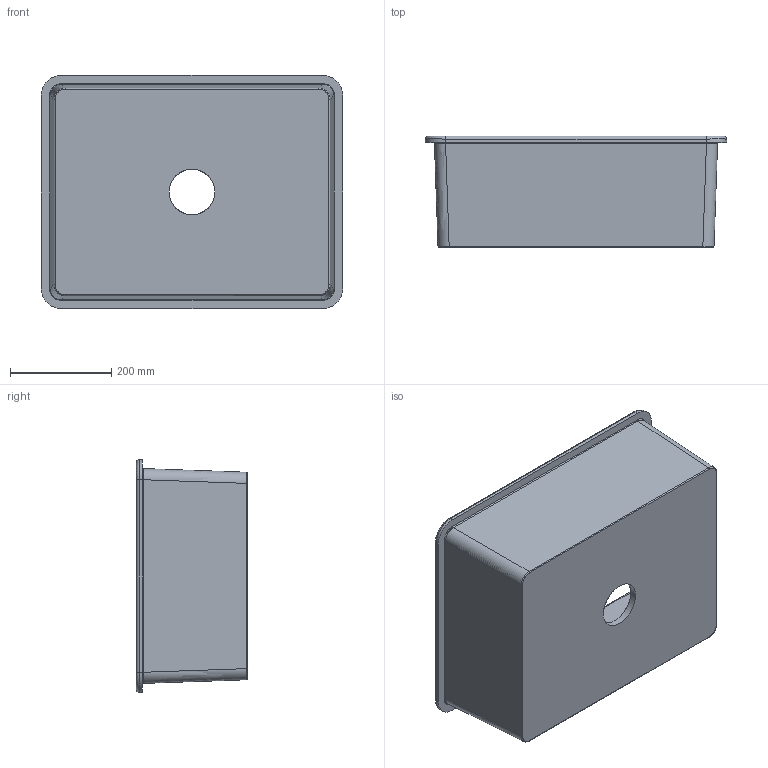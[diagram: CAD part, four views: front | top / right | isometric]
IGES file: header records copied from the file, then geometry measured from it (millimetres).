
Start section: SolidWorks IGES file using NURBS representation for surfaces
Global section: file name: D:\JÚLIO\#1# PRODUTOS\LAVA-LOUÇAS\Valet\7350 - l. louça 60x46 encast\biblioteca 3D\7350_igs.IGS; native system: SolidWorks 2018; preprocessor: SolidWorks 2018; author: Julio; date: 180116.105032; units: millimetre
Bounding box: 595 x 220 x 460 mm (x, y, z)
Surface area: 1254913.6 mm2 (no closed solid volume)
Topology: 0 solids, 0 shells, 83 faces, 1028 edges, 1024 vertices
Faces by surface type: bspline 83
